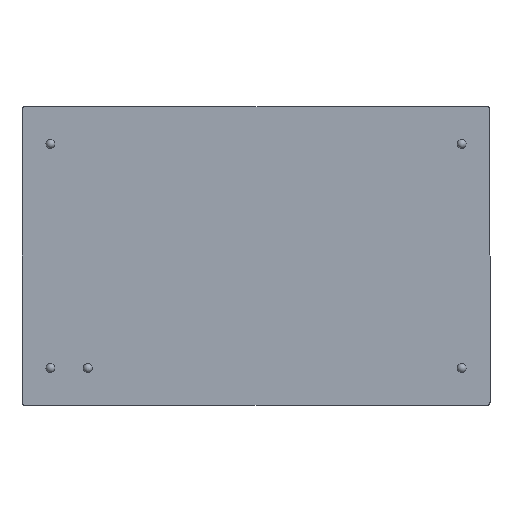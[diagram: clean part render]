
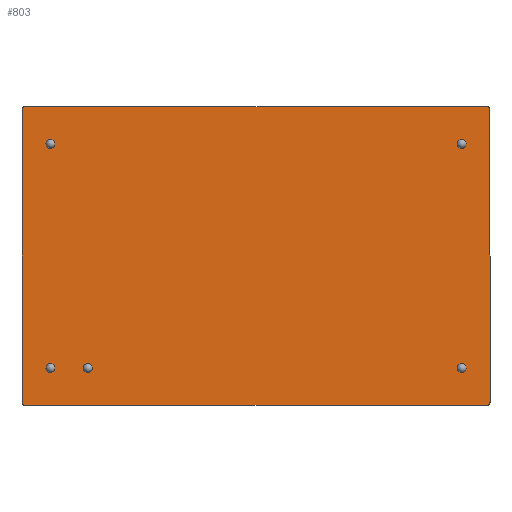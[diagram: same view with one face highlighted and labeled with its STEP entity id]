
A CAD part, front view. The second image highlights one B-rep face of the part: STEP entity #803.
In plain terms, the highlighted planar face has unit normal (0, -1, 0).
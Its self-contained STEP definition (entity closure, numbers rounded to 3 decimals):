
#20 = CARTESIAN_POINT ( 'NONE',  ( -15.7, 0., 10.15 ) ) ;
#21 = CIRCLE ( 'NONE', #860, 0.3 ) ;
#22 = CARTESIAN_POINT ( 'NONE',  ( -15.7, 0., -10.15 ) ) ;
#26 = VERTEX_POINT ( 'NONE', #369 ) ;
#29 = EDGE_CURVE ( 'NONE', #810, #296, #464, .T. ) ;
#34 = CARTESIAN_POINT ( 'NONE',  ( -15.817, 0., -10.15 ) ) ;
#43 = CARTESIAN_POINT ( 'NONE',  ( 13.97, 0., -7.32 ) ) ;
#46 = CARTESIAN_POINT ( 'NONE',  ( 15.9, 0., 9.95 ) ) ;
#52 = EDGE_LOOP ( 'NONE', ( #644 ) ) ;
#53 = DIRECTION ( 'NONE',  ( 1., 0., 0. ) ) ;
#60 = EDGE_CURVE ( 'NONE', #245, #296, #717, .T. ) ;
#64 = AXIS2_PLACEMENT_3D ( 'NONE', #676, #253, #754 ) ;
#69 = DIRECTION ( 'NONE',  ( -1., 0., 0. ) ) ;
#72 = CIRCLE ( 'NONE', #806, 0.3 ) ;
#89 = FACE_BOUND ( 'NONE', #52, .T. ) ;
#92 = VECTOR ( 'NONE', #53, 1000. ) ;
#98 = CARTESIAN_POINT ( 'NONE',  ( 13.97, 0., -7.62 ) ) ;
#100 = EDGE_CURVE ( 'NONE', #398, #398, #376, .T. ) ;
#107 = VECTOR ( 'NONE', #501, 1000. ) ;
#114 = DIRECTION ( 'NONE',  ( 0., 0., 1. ) ) ;
#118 = EDGE_CURVE ( 'NONE', #791, #581, #454, .T. ) ;
#131 = DIRECTION ( 'NONE',  ( 0., 0., 1. ) ) ;
#137 = CIRCLE ( 'NONE', #282, 0.3 ) ;
#147 = CARTESIAN_POINT ( 'NONE',  ( 15.9, 0., -10.15 ) ) ;
#151 = DIRECTION ( 'NONE',  ( 0., 0., -1. ) ) ;
#160 = LINE ( 'NONE', #334, #92 ) ;
#195 = CARTESIAN_POINT ( 'NONE',  ( 15.7, 0., 10.15 ) ) ;
#206 = EDGE_LOOP ( 'NONE', ( #834 ) ) ;
#212 = CARTESIAN_POINT ( 'NONE',  ( -13.97, 0., -7.62 ) ) ;
#214 = DIRECTION ( 'NONE',  ( 0., -1., 0. ) ) ;
#215 = DIRECTION ( 'NONE',  ( 0., 0., 1. ) ) ;
#224 = AXIS2_PLACEMENT_3D ( 'NONE', #212, #214, #215 ) ;
#238 = CIRCLE ( 'NONE', #64, 0.3 ) ;
#239 = DIRECTION ( 'NONE',  ( 0., 0., 1. ) ) ;
#245 = VERTEX_POINT ( 'NONE', #724 ) ;
#252 = EDGE_CURVE ( 'NONE', #755, #755, #21, .T. ) ;
#253 = DIRECTION ( 'NONE',  ( 0., -1., 0. ) ) ;
#266 = CARTESIAN_POINT ( 'NONE',  ( 15.7, 0., -10.15 ) ) ;
#276 = CARTESIAN_POINT ( 'NONE',  ( 15.817, 0., 10.15 ) ) ;
#278 = FACE_BOUND ( 'NONE', #618, .T. ) ;
#282 = AXIS2_PLACEMENT_3D ( 'NONE', #98, #798, #114 ) ;
#291 = EDGE_CURVE ( 'NONE', #556, #556, #137, .T. ) ;
#296 = VERTEX_POINT ( 'NONE', #22 ) ;
#301 = CARTESIAN_POINT ( 'NONE',  ( -15.9, 0., 10.067 ) ) ;
#306 = CARTESIAN_POINT ( 'NONE',  ( -15.817, 0., 10.15 ) ) ;
#310 = CARTESIAN_POINT ( 'NONE',  ( -15.7, 0., -10.15 ) ) ;
#314 = CARTESIAN_POINT ( 'NONE',  ( 15.9, 0., -9.95 ) ) ;
#316 = CARTESIAN_POINT ( 'NONE',  ( -11.43, 0., -7.62 ) ) ;
#329 = EDGE_LOOP ( 'NONE', ( #543, #602, #811, #820, #590, #749, #677, #603 ) ) ;
#333 = CARTESIAN_POINT ( 'NONE',  ( -15.9, 0., 9.95 ) ) ;
#334 = CARTESIAN_POINT ( 'NONE',  ( -15.9, 0., 10.15 ) ) ;
#335 = EDGE_CURVE ( 'NONE', #867, #857, #456, .T. ) ;
#340 = CARTESIAN_POINT ( 'NONE',  ( 15.9, 0., 10.067 ) ) ;
#350 = CARTESIAN_POINT ( 'NONE',  ( -15.9, 0., -10.15 ) ) ;
#369 = CARTESIAN_POINT ( 'NONE',  ( -13.97, 0., 7.92 ) ) ;
#372 = CARTESIAN_POINT ( 'NONE',  ( -13.97, 0., -7.32 ) ) ;
#376 = CIRCLE ( 'NONE', #224, 0.3 ) ;
#398 = VERTEX_POINT ( 'NONE', #372 ) ;
#400 = EDGE_CURVE ( 'NONE', #245, #581, #699, .T. ) ;
#414 = ORIENTED_EDGE ( 'NONE', *, *, #821, .F. ) ;
#425 = EDGE_LOOP ( 'NONE', ( #414 ) ) ;
#441 =( BOUNDED_CURVE ( )  B_SPLINE_CURVE ( 3, ( #765, #340, #276, #697 ),
 .UNSPECIFIED., .F., .T. ) 
 B_SPLINE_CURVE_WITH_KNOTS ( ( 4, 4 ),
 ( 5.498, 7.068 ),
 .UNSPECIFIED. ) 
 CURVE ( )  GEOMETRIC_REPRESENTATION_ITEM ( )  RATIONAL_B_SPLINE_CURVE ( ( 1., 0.805, 0.805, 1. ) ) 
 REPRESENTATION_ITEM ( '' )  );
#453 = CARTESIAN_POINT ( 'NONE',  ( 15.7, 0., -10.15 ) ) ;
#454 =( BOUNDED_CURVE ( )  B_SPLINE_CURVE ( 3, ( #557, #306, #301, #491 ),
 .UNSPECIFIED., .F., .F. ) 
 B_SPLINE_CURVE_WITH_KNOTS ( ( 4, 4 ),
 ( 5.498, 7.068 ),
 .UNSPECIFIED. ) 
 CURVE ( )  GEOMETRIC_REPRESENTATION_ITEM ( )  RATIONAL_B_SPLINE_CURVE ( ( 1., 0.805, 0.805, 1. ) ) 
 REPRESENTATION_ITEM ( '' )  );
#456 = LINE ( 'NONE', #147, #807 ) ;
#457 = CARTESIAN_POINT ( 'NONE',  ( 15.9, 0., -9.95 ) ) ;
#459 = VERTEX_POINT ( 'NONE', #195 ) ;
#464 = LINE ( 'NONE', #350, #488 ) ;
#465 = FACE_BOUND ( 'NONE', #425, .T. ) ;
#488 = VECTOR ( 'NONE', #69, 1000. ) ;
#491 = CARTESIAN_POINT ( 'NONE',  ( -15.9, 0., 9.95 ) ) ;
#501 = DIRECTION ( 'NONE',  ( 0., 0., 1. ) ) ;
#518 = CARTESIAN_POINT ( 'NONE',  ( 13.97, 0., 7.92 ) ) ;
#521 = CARTESIAN_POINT ( 'NONE',  ( 15.817, 0., -10.15 ) ) ;
#537 = EDGE_CURVE ( 'NONE', #791, #459, #160, .T. ) ;
#543 = ORIENTED_EDGE ( 'NONE', *, *, #400, .F. ) ;
#556 = VERTEX_POINT ( 'NONE', #43 ) ;
#557 = CARTESIAN_POINT ( 'NONE',  ( -15.7, 0., 10.15 ) ) ;
#581 = VERTEX_POINT ( 'NONE', #333 ) ;
#590 = ORIENTED_EDGE ( 'NONE', *, *, #335, .F. ) ;
#592 = EDGE_LOOP ( 'NONE', ( #792 ) ) ;
#598 =( BOUNDED_CURVE ( )  B_SPLINE_CURVE ( 3, ( #453, #521, #802, #314 ),
 .UNSPECIFIED., .F., .F. ) 
 B_SPLINE_CURVE_WITH_KNOTS ( ( 4, 4 ),
 ( 5.498, 7.068 ),
 .UNSPECIFIED. ) 
 CURVE ( )  GEOMETRIC_REPRESENTATION_ITEM ( )  RATIONAL_B_SPLINE_CURVE ( ( 1., 0.805, 0.805, 1. ) ) 
 REPRESENTATION_ITEM ( '' )  );
#602 = ORIENTED_EDGE ( 'NONE', *, *, #60, .T. ) ;
#603 = ORIENTED_EDGE ( 'NONE', *, *, #118, .T. ) ;
#613 = DIRECTION ( 'NONE',  ( 0., 1., 0. ) ) ;
#618 = EDGE_LOOP ( 'NONE', ( #690 ) ) ;
#644 = ORIENTED_EDGE ( 'NONE', *, *, #700, .F. ) ;
#648 = FACE_BOUND ( 'NONE', #206, .T. ) ;
#676 = CARTESIAN_POINT ( 'NONE',  ( -13.97, 0., 7.62 ) ) ;
#677 = ORIENTED_EDGE ( 'NONE', *, *, #537, .F. ) ;
#690 = ORIENTED_EDGE ( 'NONE', *, *, #100, .F. ) ;
#697 = CARTESIAN_POINT ( 'NONE',  ( 15.7, 0., 10.15 ) ) ;
#699 = LINE ( 'NONE', #721, #107 ) ;
#700 = EDGE_CURVE ( 'NONE', #26, #26, #238, .T. ) ;
#717 =( BOUNDED_CURVE ( )  B_SPLINE_CURVE ( 3, ( #786, #772, #34, #310 ),
 .UNSPECIFIED., .F., .F. ) 
 B_SPLINE_CURVE_WITH_KNOTS ( ( 4, 4 ),
 ( 5.498, 7.068 ),
 .UNSPECIFIED. ) 
 CURVE ( )  GEOMETRIC_REPRESENTATION_ITEM ( )  RATIONAL_B_SPLINE_CURVE ( ( 1., 0.805, 0.805, 1. ) ) 
 REPRESENTATION_ITEM ( '' )  );
#721 = CARTESIAN_POINT ( 'NONE',  ( -15.9, 0., -10.15 ) ) ;
#724 = CARTESIAN_POINT ( 'NONE',  ( -15.9, 0., -9.95 ) ) ;
#729 = VERTEX_POINT ( 'NONE', #799 ) ;
#738 = DIRECTION ( 'NONE',  ( 0., -1., 0. ) ) ;
#749 = ORIENTED_EDGE ( 'NONE', *, *, #775, .T. ) ;
#754 = DIRECTION ( 'NONE',  ( 0., 0., 1. ) ) ;
#755 = VERTEX_POINT ( 'NONE', #518 ) ;
#763 = CARTESIAN_POINT ( 'NONE',  ( 0., 0., 0. ) ) ;
#765 = CARTESIAN_POINT ( 'NONE',  ( 15.9, 0., 9.95 ) ) ;
#772 = CARTESIAN_POINT ( 'NONE',  ( -15.9, 0., -10.067 ) ) ;
#775 = EDGE_CURVE ( 'NONE', #867, #459, #441, .T. ) ;
#777 = CARTESIAN_POINT ( 'NONE',  ( 13.97, 0., 7.62 ) ) ;
#780 = DIRECTION ( 'NONE',  ( 0., -1., 0. ) ) ;
#786 = CARTESIAN_POINT ( 'NONE',  ( -15.9, 0., -9.95 ) ) ;
#791 = VERTEX_POINT ( 'NONE', #20 ) ;
#792 = ORIENTED_EDGE ( 'NONE', *, *, #291, .F. ) ;
#798 = DIRECTION ( 'NONE',  ( 0., -1., 0. ) ) ;
#799 = CARTESIAN_POINT ( 'NONE',  ( -11.43, 0., -7.32 ) ) ;
#800 = DIRECTION ( 'NONE',  ( 0., 0., 1. ) ) ;
#802 = CARTESIAN_POINT ( 'NONE',  ( 15.9, 0., -10.067 ) ) ;
#803 = ADVANCED_FACE ( 'NONE', ( #648, #859, #465, #278, #89, #812 ), #831, .F. ) ;
#806 = AXIS2_PLACEMENT_3D ( 'NONE', #316, #738, #239 ) ;
#807 = VECTOR ( 'NONE', #151, 1000. ) ;
#810 = VERTEX_POINT ( 'NONE', #266 ) ;
#811 = ORIENTED_EDGE ( 'NONE', *, *, #29, .F. ) ;
#812 = FACE_OUTER_BOUND ( 'NONE', #329, .T. ) ;
#820 = ORIENTED_EDGE ( 'NONE', *, *, #869, .T. ) ;
#821 = EDGE_CURVE ( 'NONE', #729, #729, #72, .T. ) ;
#831 = PLANE ( 'NONE',  #853 ) ;
#834 = ORIENTED_EDGE ( 'NONE', *, *, #252, .F. ) ;
#853 = AXIS2_PLACEMENT_3D ( 'NONE', #763, #613, #131 ) ;
#857 = VERTEX_POINT ( 'NONE', #457 ) ;
#859 = FACE_BOUND ( 'NONE', #592, .T. ) ;
#860 = AXIS2_PLACEMENT_3D ( 'NONE', #777, #780, #800 ) ;
#867 = VERTEX_POINT ( 'NONE', #46 ) ;
#869 = EDGE_CURVE ( 'NONE', #810, #857, #598, .T. ) ;
